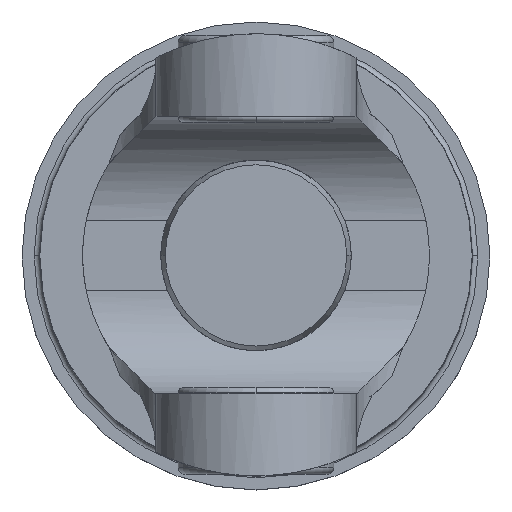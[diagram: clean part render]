
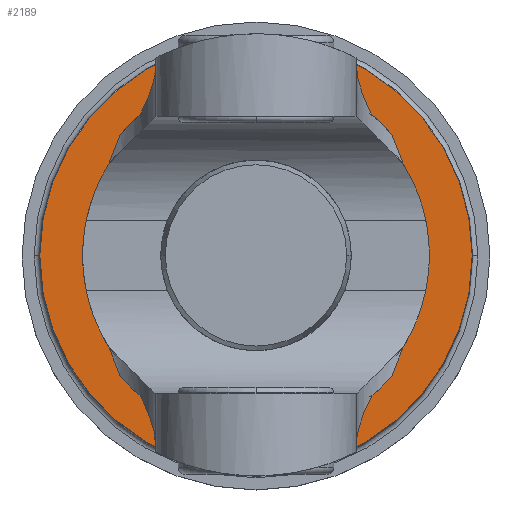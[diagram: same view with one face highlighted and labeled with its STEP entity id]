
A CAD part, top view. The second image highlights one B-rep face of the part: STEP entity #2189.
In plain terms, the highlighted planar face has unit normal (0, 0, 1).
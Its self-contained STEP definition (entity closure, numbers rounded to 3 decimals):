
#71 = AXIS2_PLACEMENT_3D ( 'NONE', #3754, #3311, #2809 ) ;
#128 = ORIENTED_EDGE ( 'NONE', *, *, #5004, .T. ) ;
#154 = CARTESIAN_POINT ( 'NONE',  ( -12.375, 0., -890.545 ) ) ;
#265 = EDGE_CURVE ( 'NONE', #5541, #1402, #3730, .T. ) ;
#472 = ORIENTED_EDGE ( 'NONE', *, *, #265, .T. ) ;
#567 = DIRECTION ( 'NONE',  ( 1., 0., 0. ) ) ;
#617 = AXIS2_PLACEMENT_3D ( 'NONE', #3092, #5001, #567 ) ;
#777 = CARTESIAN_POINT ( 'NONE',  ( 5.6, 0., -890.545 ) ) ;
#840 = FACE_OUTER_BOUND ( 'NONE', #1534, .T. ) ;
#945 = ORIENTED_EDGE ( 'NONE', *, *, #2206, .T. ) ;
#1031 = CIRCLE ( 'NONE', #3674, 12.475 ) ;
#1278 = PLANE ( 'NONE',  #617 ) ;
#1402 = VERTEX_POINT ( 'NONE', #2421 ) ;
#1534 = EDGE_LOOP ( 'NONE', ( #945, #2949 ) ) ;
#1731 = CARTESIAN_POINT ( 'NONE',  ( 0.1, 0., -890.545 ) ) ;
#1797 = DIRECTION ( 'NONE',  ( 0., 0., -1. ) ) ;
#2189 = ADVANCED_FACE ( 'NONE', ( #3971, #840 ), #1278, .F. ) ;
#2206 = EDGE_CURVE ( 'NONE', #5094, #5450, #4397, .T. ) ;
#2311 = AXIS2_PLACEMENT_3D ( 'NONE', #3232, #4080, #5451 ) ;
#2421 = CARTESIAN_POINT ( 'NONE',  ( -5.4, 0., -890.545 ) ) ;
#2565 = DIRECTION ( 'NONE',  ( -1., 0., 0. ) ) ;
#2633 = CARTESIAN_POINT ( 'NONE',  ( 0.1, 0., -890.545 ) ) ;
#2683 = DIRECTION ( 'NONE',  ( 1., 0., 0. ) ) ;
#2809 = DIRECTION ( 'NONE',  ( 1., 0., 0. ) ) ;
#2919 = CARTESIAN_POINT ( 'NONE',  ( 12.575, 0., -890.545 ) ) ;
#2949 = ORIENTED_EDGE ( 'NONE', *, *, #5302, .T. ) ;
#3092 = CARTESIAN_POINT ( 'NONE',  ( 5.6, 0., -890.545 ) ) ;
#3232 = CARTESIAN_POINT ( 'NONE',  ( 0.1, 0., -890.545 ) ) ;
#3311 = DIRECTION ( 'NONE',  ( 0., 0., -1. ) ) ;
#3674 = AXIS2_PLACEMENT_3D ( 'NONE', #1731, #5376, #2565 ) ;
#3730 = CIRCLE ( 'NONE', #5239, 5.5 ) ;
#3754 = CARTESIAN_POINT ( 'NONE',  ( 0.1, 0., -890.545 ) ) ;
#3971 = FACE_BOUND ( 'NONE', #5195, .T. ) ;
#4080 = DIRECTION ( 'NONE',  ( 0., 0., 1. ) ) ;
#4397 = CIRCLE ( 'NONE', #2311, 12.475 ) ;
#4800 = CIRCLE ( 'NONE', #71, 5.5 ) ;
#5001 = DIRECTION ( 'NONE',  ( 0., 0., -1. ) ) ;
#5004 = EDGE_CURVE ( 'NONE', #1402, #5541, #4800, .T. ) ;
#5094 = VERTEX_POINT ( 'NONE', #154 ) ;
#5195 = EDGE_LOOP ( 'NONE', ( #472, #128 ) ) ;
#5239 = AXIS2_PLACEMENT_3D ( 'NONE', #2633, #1797, #2683 ) ;
#5302 = EDGE_CURVE ( 'NONE', #5450, #5094, #1031, .T. ) ;
#5376 = DIRECTION ( 'NONE',  ( 0., 0., 1. ) ) ;
#5450 = VERTEX_POINT ( 'NONE', #2919 ) ;
#5451 = DIRECTION ( 'NONE',  ( -1., 0., 0. ) ) ;
#5541 = VERTEX_POINT ( 'NONE', #777 ) ;
